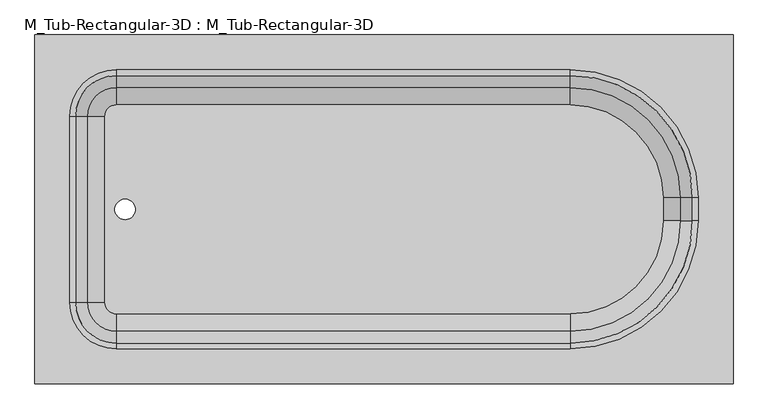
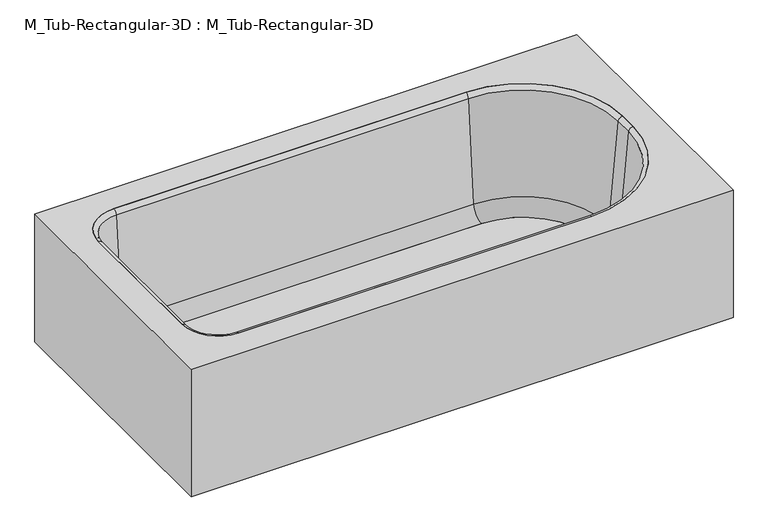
"""IFC4 building model written with IfcOpenShell, lengths in millimetres: flow terminal geometry, M_Tub-Rectangular-3D : M_Tub-Rectangular-3D."""

from ifc_helpers import new_model, si_unit, point, frame, frame_2d, origin, place, context, project, spatial, polyline, circle_curve, ellipse_curve, trimmed, segment, composite_curve, outline, extrude, source, transform, mapped, element, save
from ifc_brep_helpers import plane_surface, cylinder_surface, revolved_surface, advanced_brep


def m_tub_rectangular_3d_m_tub_rectangular_3d_3da3e62d(model_context):
    return source(origin(), model_context, "Body", "SolidModel", [
        advanced_brep(
        [(414.3970313, 938.2125, 380.0), (-1110.6029687, 938.2125, 380.0), (-1110.6029687, 176.2125, 380.0), (414.3970313, 176.2125, 380.0), (-932.8029687, 862.0125, 380.0), (58.7970313, 862.0125, 380.0), (338.1970313, 582.6125, 380.0), (338.1970313, 531.8125, 380.0), (58.7970313, 252.4125, 380.0), (-932.8029687, 252.4125, 380.0), (-1034.4029687, 354.0125, 380.0), (-1034.4029687, 760.4125, 380.0), (395.3470313, 919.1625, 360.95), (395.3470313, 195.2625, 360.95), (-1091.5529687, 195.2625, 360.95), (-1091.5529687, 919.1625, 360.95), (-932.8029687, 862.0125, 360.95), (-1034.4029687, 760.4125, 360.95), (-1034.4029687, 354.0125, 360.95), (-932.8029687, 252.4125, 360.95), (58.7970313, 252.4125, 360.95), (338.1970313, 531.8125, 360.95), (338.1970313, 582.6125, 360.95), (58.7970313, 862.0125, 360.95), (414.3970313, 938.2125, 0.0), (-1110.6029687, 938.2125, 0.0), (-1110.6029687, 176.2125, 0.0), (414.3970313, 176.2125, 0.0), (395.3470313, 919.1625, 0.0), (-1091.5529687, 919.1625, 0.0), (-1091.5529687, 195.2625, 0.0), (395.3470313, 195.2625, 0.0)],
        [
            (0, 1),
            (1, 2),
            (2, 3),
            (3, 0),
            (4, 5),
            (5, 6, circle_curve(frame((58.7970313, 582.6125, 380.0), z_axis=(0.0, 0.0, -1.0), x_axis=(0.0, 1.0, 0.0)), 279.4)),
            (6, 7),
            (7, 8, circle_curve(frame((58.7970313, 531.8125, 380.0), z_axis=(0.0, 0.0, -1.0), x_axis=(0.0, 1.0, 0.0)), 279.4)),
            (8, 9),
            (9, 10, circle_curve(frame((-932.8029687, 354.0125, 380.0), z_axis=(0.0, 0.0, -1.0), x_axis=(0.0, 1.0, 0.0)), 101.6)),
            (10, 11),
            (11, 4, circle_curve(frame((-932.8029687, 760.4125, 380.0), z_axis=(0.0, 0.0, -1.0), x_axis=(0.0, 1.0, 0.0)), 101.6)),
            (12, 13),
            (13, 14),
            (14, 15),
            (15, 12),
            (16, 17, circle_curve(frame((-932.8029687, 760.4125, 360.95), z_axis=(0.0, 0.0, 1.0), x_axis=(0.0, 1.0, 0.0)), 101.6)),
            (17, 18),
            (18, 19, circle_curve(frame((-932.8029687, 354.0125, 360.95), z_axis=(0.0, 0.0, 1.0), x_axis=(0.0, 1.0, 0.0)), 101.6)),
            (19, 20),
            (20, 21, circle_curve(frame((58.7970313, 531.8125, 360.95), z_axis=(0.0, 0.0, 1.0), x_axis=(0.0, 1.0, 0.0)), 279.4)),
            (21, 22),
            (22, 23, circle_curve(frame((58.7970313, 582.6125, 360.95), z_axis=(0.0, 0.0, 1.0), x_axis=(0.0, 1.0, 0.0)), 279.4)),
            (23, 16),
            (0, 24),
            (24, 25),
            (25, 1),
            (25, 26),
            (26, 2),
            (26, 27),
            (27, 3),
            (27, 24),
            (4, 16),
            (23, 5),
            (22, 6),
            (21, 7),
            (20, 8),
            (19, 9),
            (18, 10),
            (17, 11),
            (28, 29),
            (29, 30),
            (30, 31),
            (31, 28),
            (31, 13),
            (12, 28),
            (30, 14),
            (29, 15),
        ],
        [
            plane_surface(frame((-1110.6029687, 938.2125, 380.0), z_axis=(0.0, 0.0, 1.0), x_axis=(-1.0, 0.0, 0.0))),
            plane_surface(frame((-1110.6029687, 938.2125, 360.95), z_axis=(0.0, 0.0, -1.0), x_axis=(1.0, 0.0, 0.0))),
            plane_surface(frame((414.3970313, 938.2125, 380.0), z_axis=(0.0, 1.0, 0.0), x_axis=(0.0, 0.0, -1.0))),
            plane_surface(frame((-1110.6029687, 938.2125, 380.0), z_axis=(-1.0, 0.0, 0.0), x_axis=(0.0, 0.0, -1.0))),
            plane_surface(frame((-1110.6029687, 176.2125, 380.0), z_axis=(0.0, -1.0, 0.0), x_axis=(0.0, 0.0, -1.0))),
            plane_surface(frame((414.3970313, 176.2125, 380.0), z_axis=(1.0, 0.0, 0.0), x_axis=(0.0, 0.0, -1.0))),
            plane_surface(frame((-932.8029687, 862.0125, 380.0), z_axis=(0.0, -1.0, 0.0), x_axis=(0.0, 0.0, -1.0))),
            revolved_surface(polyline([(58.7970313, 862.0124999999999, 360.95), (58.7970313, 862.0124999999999, 380.0)]), (58.7970313, 582.6125, 380.0), (0.0, 0.0, -1.0)),
            plane_surface(frame((338.1970313, 582.6125, 380.0), z_axis=(-1.0, 0.0, 0.0), x_axis=(0.0, 0.0, -1.0))),
            revolved_surface(polyline([(58.7970313, 811.2125, 360.95), (58.7970313, 811.2125, 380.0)]), (58.7970313, 531.8125, 380.0), (0.0, 0.0, -1.0)),
            plane_surface(frame((58.7970313, 252.4125, 380.0), z_axis=(0.0, 1.0, 0.0), x_axis=(0.0, 0.0, -1.0))),
            revolved_surface(polyline([(-932.8029687, 455.61249999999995, 360.95), (-932.8029687, 455.61249999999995, 380.0)]), (-932.8029687, 354.0125, 380.0), (0.0, 0.0, -1.0)),
            plane_surface(frame((-1034.4029687, 354.0125, 380.0), z_axis=(1.0, 0.0, 0.0), x_axis=(0.0, 0.0, -1.0))),
            revolved_surface(polyline([(-932.8029687, 862.0125, 360.95), (-932.8029687, 862.0125, 380.0)]), (-932.8029687, 760.4125, 380.0), (0.0, 0.0, -1.0)),
            plane_surface(frame((-1110.6029687, 938.2125, 0.0), z_axis=(0.0, 0.0, -1.0), x_axis=(1.0, 0.0, 0.0))),
            plane_surface(frame((395.3470313, 919.1625, 360.95), z_axis=(-1.0, 0.0, 0.0), x_axis=(0.0, 0.0, -1.0))),
            plane_surface(frame((395.3470313, 195.2625, 360.95), z_axis=(0.0, 1.0, 0.0), x_axis=(0.0, 0.0, -1.0))),
            plane_surface(frame((-1091.5529687, 195.2625, 360.95), z_axis=(1.0, 0.0, 0.0), x_axis=(0.0, 0.0, -1.0))),
            plane_surface(frame((-1091.5529687, 919.1625, 360.95), z_axis=(0.0, -1.0, 0.0), x_axis=(0.0, 0.0, -1.0))),
        ],
        [
            (0, [[1, 2, 3, 4], [5, 6, 7, 8, 9, 10, 11, 12]]),
            (1, [[13, 14, 15, 16], [17, 18, 19, 20, 21, 22, 23, 24]]),
            (2, [[-1, 25, 26, 27]]),
            (3, [[-2, -27, 28, 29]]),
            (4, [[-3, -29, 30, 31]]),
            (5, [[-25, -4, -31, 32]]),
            (6, [[-5, 33, -24, 34]]),
            (7, [[-6, -34, -23, 35]]),
            (8, [[-7, -35, -22, 36]]),
            (9, [[-8, -36, -21, 37]]),
            (10, [[-9, -37, -20, 38]]),
            (11, [[-10, -38, -19, 39]]),
            (12, [[-11, -39, -18, 40]]),
            (13, [[-12, -40, -17, -33]]),
            (14, [[-32, -30, -28, -26], [41, 42, 43, 44]]),
            (15, [[-44, 45, -13, 46]]),
            (16, [[-43, 47, -14, -45]]),
            (17, [[-42, 48, -15, -47]]),
            (18, [[-41, -46, -16, -48]]),
        ],
    ),
        extrude(outline(composite_curve([segment(trimmed(circle_curve(frame_2d((58.7970313, 582.6125)), 202.7964741), [point((58.7970313, 785.4089741))], [point((261.5935054, 582.6125))], False, "CARTESIAN"), True, "CONTINUOUS"), segment(polyline([(261.5935054, 582.6125), (261.5935054, 531.8125)]), True, "CONTINUOUS"), segment(trimmed(circle_curve(frame_2d((58.7970313, 531.8125)), 202.7964741), [point((261.5935054, 531.8125))], [point((58.7970313, 329.0160259))], False, "CARTESIAN"), True, "CONTINUOUS"), segment(polyline([(58.7970313, 329.0160259), (-932.8029687, 329.0160259)]), True, "CONTINUOUS"), segment(trimmed(circle_curve(frame_2d((-932.8029687, 354.0125)), 24.9964741), [point((-932.8029687, 329.0160259))], [point((-957.7994428, 354.0125))], False, "CARTESIAN"), True, "CONTINUOUS"), segment(polyline([(-957.7994428, 354.0125), (-957.7994428, 760.4125)]), True, "CONTINUOUS"), segment(trimmed(circle_curve(frame_2d((-932.8029687, 760.4125)), 24.9964741), [point((-957.7994428, 760.4125))], [point((-932.8029687, 785.4089741))], False, "CARTESIAN"), True, "CONTINUOUS"), segment(polyline([(-932.8029687, 785.4089741), (58.7970313, 785.4089741)]), True, "CONTINUOUS")], self_intersect=False), holes=[composite_curve([segment(trimmed(circle_curve(frame_2d((-913.5971625, 557.2125)), 22.225), [point((-913.5971625, 579.4375))], [point((-913.5971625, 534.9875))], True, "CARTESIAN"), True, "CONTINUOUS"), segment(trimmed(circle_curve(frame_2d((-913.5971625, 557.2125)), 22.225), [point((-913.5971625, 534.9875))], [point((-913.5971625, 579.4375))], True, "CARTESIAN"), True, "CONTINUOUS")], self_intersect=False)]), frame((0.0, 0.0, 15.863573), z_axis=(0.0, 0.0, 1.0), x_axis=(1.0, 0.0, 0.0)), (0.0, 0.0, 1.0), 19.05),
        advanced_brep(
        [(-995.7544608, 760.4125, 69.6929392), (-932.8029687, 823.3639921, 69.6929392), (-932.8029687, 849.5345035, 368.8232535), (-1021.9249722, 760.4125, 368.8232535), (-957.7994428, 760.4125, 34.913573), (-932.8029687, 785.4089741, 34.913573), (-957.7994428, 760.4125, 15.863573), (-932.8029687, 785.4089741, 15.863573), (-1034.4029687, 760.4125, 15.863573), (-932.8029687, 862.0125, 15.863573), (-1034.4029687, 760.4125, 380.0), (-932.8029687, 862.0125, 380.0), (-1021.9249722, 354.0125, 368.8232535), (-995.7544608, 354.0125, 69.6929392), (-957.7994428, 354.0125, 34.913573), (-957.7994428, 354.0125, 15.863573), (-1034.4029687, 354.0125, 15.863573), (-1034.4029687, 354.0125, 380.0), (-932.8029687, 291.0610079, 69.6929392), (-932.8029687, 264.8904965, 368.8232535), (-932.8029687, 329.0160259, 34.913573), (-932.8029687, 329.0160259, 15.863573), (-932.8029687, 252.4125, 15.863573), (-932.8029687, 252.4125, 380.0), (58.7970313, 264.8904965, 368.8232535), (58.7970313, 291.0610079, 69.6929392), (58.7970313, 329.0160259, 34.913573), (58.7970313, 329.0160259, 15.863573), (58.7970313, 252.4125, 15.863573), (58.7970313, 252.4125, 380.0), (299.5485234, 531.8125, 69.6929392), (325.7190348, 531.8125, 368.8232535), (261.5935054, 531.8125, 34.913573), (261.5935054, 531.8125, 15.863573), (338.1970313, 531.8125, 15.863573), (338.1970313, 531.8125, 380.0), (325.7190348, 582.6125, 368.8232535), (299.5485234, 582.6125, 69.6929392), (261.5935054, 582.6125, 34.913573), (261.5935054, 582.6125, 15.863573), (338.1970313, 582.6125, 15.863573), (338.1970313, 582.6125, 380.0), (58.7970313, 823.3639921, 69.6929392), (58.7970313, 849.5345035, 368.8232535), (58.7970313, 785.4089741, 34.913573), (58.7970313, 785.4089741, 15.863573), (58.7970313, 862.0125, 15.863573), (58.7970313, 862.0125, 380.0)],
        [
            (0, 1, circle_curve(frame((-932.8029687, 760.4125, 69.6929392), z_axis=(0.0, 0.0, -1.0), x_axis=(0.0, 1.0, 0.0)), 62.9514921)),
            (1, 2),
            (2, 3, circle_curve(frame((-932.8029687, 760.4125, 368.8232535), z_axis=(0.0, 0.0, 1.0), x_axis=(0.0, 1.0, 0.0)), 89.1220035)),
            (3, 0),
            (4, 5, circle_curve(frame((-932.8029687, 760.4125, 34.913573), z_axis=(0.0, 0.0, -1.0), x_axis=(0.0, 1.0, 0.0)), 24.9964741)),
            (5, 1, circle_curve(frame((-932.8029687, 785.4089741, 73.013573), z_axis=(1.0, 0.0, 0.0), x_axis=(0.0, -1.0, 0.0)), 38.1)),
            (0, 4, circle_curve(frame((-957.7994428, 760.4125, 73.013573), z_axis=(0.0, -1.0, 0.0), x_axis=(1.0, 0.0, 0.0)), 38.1)),
            (6, 7, circle_curve(frame((-932.8029687, 760.4125, 15.863573), z_axis=(0.0, 0.0, -1.0), x_axis=(0.0, 1.0, 0.0)), 24.9964741)),
            (7, 5),
            (4, 6),
            (8, 9, circle_curve(frame((-932.8029687, 760.4125, 15.863573), z_axis=(0.0, 0.0, -1.0), x_axis=(0.0, 1.0, 0.0)), 101.6)),
            (9, 7),
            (6, 8),
            (10, 11, circle_curve(frame((-932.8029687, 760.4125, 380.0), z_axis=(0.0, 0.0, -1.0), x_axis=(0.0, 1.0, 0.0)), 101.6)),
            (11, 9),
            (8, 10),
            (2, 11, circle_curve(frame((-932.8029687, 862.0125, 367.4462547), z_axis=(-1.0, 0.0, 0.0), x_axis=(0.0, -1.0, 0.0)), 12.5537453)),
            (10, 3, circle_curve(frame((-1034.4029687, 760.4125, 367.4462547), z_axis=(0.0, 1.0, 0.0), x_axis=(1.0, 0.0, 0.0)), 12.5537453)),
            (3, 12),
            (12, 13),
            (13, 0),
            (13, 14, circle_curve(frame((-957.7994428, 354.0125, 73.013573), z_axis=(0.0, -1.0, 0.0), x_axis=(1.0, 0.0, 0.0)), 38.1)),
            (14, 4),
            (14, 15),
            (15, 6),
            (15, 16),
            (16, 8),
            (16, 17),
            (17, 10),
            (17, 12, circle_curve(frame((-1034.4029687, 354.0125, 367.4462547), z_axis=(0.0, 1.0, 0.0), x_axis=(1.0, 0.0, 0.0)), 12.5537453)),
            (18, 13, circle_curve(frame((-932.8029687, 354.0125, 69.6929392), z_axis=(0.0, 0.0, -1.0), x_axis=(-1.0, 0.0, 0.0)), 62.9514921)),
            (12, 19, circle_curve(frame((-932.8029687, 354.0125, 368.8232535), z_axis=(0.0, 0.0, 1.0), x_axis=(-1.0, 0.0, 0.0)), 89.1220035)),
            (19, 18),
            (20, 14, circle_curve(frame((-932.8029687, 354.0125, 34.913573), z_axis=(0.0, 0.0, -1.0), x_axis=(-1.0, 0.0, 0.0)), 24.9964741)),
            (18, 20, circle_curve(frame((-932.8029687, 329.0160259, 73.013573), z_axis=(1.0, 0.0, 0.0), x_axis=(0.0, 1.0, 0.0)), 38.1)),
            (21, 15, circle_curve(frame((-932.8029687, 354.0125, 15.863573), z_axis=(0.0, 0.0, -1.0), x_axis=(-1.0, 0.0, 0.0)), 24.9964741)),
            (20, 21),
            (22, 16, circle_curve(frame((-932.8029687, 354.0125, 15.863573), z_axis=(0.0, 0.0, -1.0), x_axis=(-1.0, 0.0, 0.0)), 101.6)),
            (21, 22),
            (23, 17, circle_curve(frame((-932.8029687, 354.0125, 380.0), z_axis=(0.0, 0.0, -1.0), x_axis=(-1.0, 0.0, 0.0)), 101.6)),
            (22, 23),
            (23, 19, circle_curve(frame((-932.8029687, 252.4125, 367.4462547), z_axis=(-1.0, 0.0, 0.0), x_axis=(0.0, 1.0, 0.0)), 12.5537453)),
            (19, 24),
            (24, 25),
            (25, 18),
            (25, 26, circle_curve(frame((58.7970313, 329.0160259, 73.013573), z_axis=(1.0, 0.0, 0.0), x_axis=(0.0, 1.0, 0.0)), 38.1)),
            (26, 20),
            (26, 27),
            (27, 21),
            (27, 28),
            (28, 22),
            (28, 29),
            (29, 23),
            (29, 24, circle_curve(frame((58.7970313, 252.4125, 367.4462547), z_axis=(-1.0, 0.0, 0.0), x_axis=(0.0, 1.0, 0.0)), 12.5537453)),
            (30, 25, circle_curve(frame((58.7970313, 531.8125, 69.6929392), z_axis=(0.0, 0.0, -1.0), x_axis=(0.0, -1.0, 0.0)), 240.7514921)),
            (24, 31, circle_curve(frame((58.7970313, 531.8125, 368.8232535), z_axis=(0.0, 0.0, 1.0), x_axis=(0.0, -1.0, 0.0)), 266.9220035)),
            (31, 30),
            (32, 26, circle_curve(frame((58.7970313, 531.8125, 34.913573), z_axis=(0.0, 0.0, -1.0), x_axis=(0.0, -1.0, 0.0)), 202.7964741)),
            (30, 32, circle_curve(frame((261.5935054, 531.8125, 73.013573), z_axis=(0.0, 1.0, 0.0), x_axis=(-1.0, 0.0, 0.0)), 38.1)),
            (33, 27, circle_curve(frame((58.7970313, 531.8125, 15.863573), z_axis=(0.0, 0.0, -1.0), x_axis=(0.0, -1.0, 0.0)), 202.7964741)),
            (32, 33),
            (34, 28, circle_curve(frame((58.7970313, 531.8125, 15.863573), z_axis=(0.0, 0.0, -1.0), x_axis=(0.0, -1.0, 0.0)), 279.4)),
            (33, 34),
            (35, 29, circle_curve(frame((58.7970313, 531.8125, 380.0), z_axis=(0.0, 0.0, -1.0), x_axis=(0.0, -1.0, 0.0)), 279.4)),
            (34, 35),
            (35, 31, circle_curve(frame((338.1970313, 531.8125, 367.4462547), z_axis=(0.0, -1.0, 0.0), x_axis=(-1.0, 0.0, 0.0)), 12.5537453)),
            (31, 36),
            (36, 37),
            (37, 30),
            (37, 38, circle_curve(frame((261.5935054, 582.6125, 73.013573), z_axis=(0.0, 1.0, 0.0), x_axis=(-1.0, 0.0, 0.0)), 38.1)),
            (38, 32),
            (38, 39),
            (39, 33),
            (39, 40),
            (40, 34),
            (40, 41),
            (41, 35),
            (41, 36, circle_curve(frame((338.1970313, 582.6125, 367.4462547), z_axis=(0.0, -1.0, 0.0), x_axis=(-1.0, 0.0, 0.0)), 12.5537453)),
            (42, 37, circle_curve(frame((58.7970313, 582.6125, 69.6929392), z_axis=(0.0, 0.0, -1.0), x_axis=(1.0, 0.0, 0.0)), 240.7514921)),
            (36, 43, circle_curve(frame((58.7970313, 582.6125, 368.8232535), z_axis=(0.0, 0.0, 1.0), x_axis=(1.0, 0.0, 0.0)), 266.9220035)),
            (43, 42),
            (44, 38, circle_curve(frame((58.7970313, 582.6125, 34.913573), z_axis=(0.0, 0.0, -1.0), x_axis=(1.0, 0.0, 0.0)), 202.7964741)),
            (42, 44, circle_curve(frame((58.7970313, 785.4089741, 73.013573), z_axis=(-1.0, 0.0, 0.0), x_axis=(0.0, -1.0, 0.0)), 38.1)),
            (45, 39, circle_curve(frame((58.7970313, 582.6125, 15.863573), z_axis=(0.0, 0.0, -1.0), x_axis=(1.0, 0.0, 0.0)), 202.7964741)),
            (44, 45),
            (46, 40, circle_curve(frame((58.7970313, 582.6125, 15.863573), z_axis=(0.0, 0.0, -1.0), x_axis=(1.0, 0.0, 0.0)), 279.4)),
            (45, 46),
            (47, 41, circle_curve(frame((58.7970313, 582.6125, 380.0), z_axis=(0.0, 0.0, -1.0), x_axis=(1.0, 0.0, 0.0)), 279.4)),
            (46, 47),
            (47, 43, circle_curve(frame((58.7970313, 862.0125, 367.4462547), z_axis=(1.0, 0.0, 0.0), x_axis=(0.0, -1.0, 0.0)), 12.5537453)),
            (43, 2),
            (1, 42),
            (5, 44),
            (7, 45),
            (9, 46),
            (11, 47),
        ],
        [
            revolved_surface(polyline([(-932.8029687, 849.5345035, 368.8232535), (-932.8029687, 823.3639921, 69.6929392)]), (-932.8029687, 760.4125, 380.0), (0.0, 0.0, 1.0)),
            revolved_surface(trimmed(ellipse_curve(frame((-932.8029687, 785.4089741, 73.013573), z_axis=(-1.0, 0.0, 0.0), x_axis=(0.0, -1.0, 0.0)), 38.1, 38.1), [point((-932.8029687, 823.3639921, 69.6929392))], [point((-932.8029687, 785.4089741, 34.913573))], True, "CARTESIAN"), (-932.8029687, 760.4125, 380.0), (0.0, 0.0, 1.0)),
            revolved_surface(polyline([(-932.8029687, 785.4089741, 34.913572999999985), (-932.8029687, 785.4089741, 15.863572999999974)]), (-932.8029687, 760.4125, 380.0), (0.0, 0.0, 1.0)),
            plane_surface(frame((-932.8029687, 760.4125, 15.863573), z_axis=(0.0, 0.0, -1.0), x_axis=(0.0, 1.0, 0.0))),
            cylinder_surface(frame((-932.8029687, 760.4125, 380.0), z_axis=(0.0, 0.0, 1.0), x_axis=(0.0, 1.0, 0.0)), 101.6),
            revolved_surface(trimmed(ellipse_curve(frame((-932.8029687, 862.0125, 367.4462547), z_axis=(1.0, 0.0, 0.0), x_axis=(0.0, -1.0, 0.0)), 12.5537453, 12.5537453), [point((-932.8029687, 862.0125, 380.0))], [point((-932.8029687, 849.5345035, 368.8232535))], True, "CARTESIAN"), (-932.8029687, 760.4125, 380.0), (0.0, 0.0, 1.0)),
            plane_surface(frame((-1021.9249722, 760.4125, 368.8232535), z_axis=(0.9961946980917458, 0.0, 0.08715574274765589), x_axis=(0.0, -1.0, 0.0))),
            revolved_surface(polyline([(-919.6994427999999, 354.0125, 73.013573), (-919.6994427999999, 760.4125, 73.013573)]), (-957.7994428, 760.4125, 73.013573), (0.0, -1.0, 0.0)),
            plane_surface(frame((-957.7994428, 760.4125, 34.913573), z_axis=(1.0, 0.0, 0.0), x_axis=(0.0, -1.0, 0.0))),
            plane_surface(frame((-957.7994428, 760.4125, 15.863573), z_axis=(0.0, 0.0, -1.0), x_axis=(0.0, -1.0, 0.0))),
            plane_surface(frame((-1034.4029687, 760.4125, 15.863573), z_axis=(-1.0, 0.0, 0.0), x_axis=(0.0, -1.0, 0.0))),
            cylinder_surface(frame((-1034.4029687, 760.4125, 367.4462547), z_axis=(0.0, 1.0, 0.0), x_axis=(1.0, 0.0, 0.0)), 12.5537453),
            revolved_surface(polyline([(-1021.9249722, 354.0125, 368.8232535), (-995.7544608, 354.0125, 69.6929392)]), (-932.8029687, 354.0125, 380.0), (0.0, 0.0, 1.0)),
            revolved_surface(trimmed(ellipse_curve(frame((-957.7994428, 354.0125, 73.013573), z_axis=(0.0, -1.0, 0.0), x_axis=(1.0, 0.0, 0.0)), 38.1, 38.1), [point((-995.7544608, 354.0125, 69.6929392))], [point((-957.7994428, 354.0125, 34.913573))], True, "CARTESIAN"), (-932.8029687, 354.0125, 380.0), (0.0, 0.0, 1.0)),
            revolved_surface(polyline([(-957.7994428, 354.0125, 34.913572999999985), (-957.7994428, 354.0125, 15.863572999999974)]), (-932.8029687, 354.0125, 380.0), (0.0, 0.0, 1.0)),
            plane_surface(frame((-932.8029687, 354.0125, 15.863573), z_axis=(0.0, 0.0, -1.0), x_axis=(-1.0, 0.0, 0.0))),
            cylinder_surface(frame((-932.8029687, 354.0125, 380.0), z_axis=(0.0, 0.0, 1.0), x_axis=(-1.0, 0.0, 0.0)), 101.6),
            revolved_surface(trimmed(ellipse_curve(frame((-1034.4029687, 354.0125, 367.4462547), z_axis=(0.0, 1.0, 0.0), x_axis=(1.0, 0.0, 0.0)), 12.5537453, 12.5537453), [point((-1034.4029687, 354.0125, 380.0))], [point((-1021.9249722, 354.0125, 368.8232535))], True, "CARTESIAN"), (-932.8029687, 354.0125, 380.0), (0.0, 0.0, 1.0)),
            plane_surface(frame((-932.8029687, 264.8904965, 368.8232535), z_axis=(0.0, 0.9961946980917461, 0.08715574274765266), x_axis=(1.0, 0.0, 0.0))),
            revolved_surface(polyline([(58.79703129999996, 367.1160259, 73.013573), (-932.8029687, 367.1160259, 73.013573)]), (-932.8029687, 329.0160259, 73.013573), (1.0, 0.0, 0.0)),
            plane_surface(frame((-932.8029687, 329.0160259, 34.913573), z_axis=(0.0, 1.0, 0.0), x_axis=(1.0, 0.0, 0.0))),
            plane_surface(frame((-932.8029687, 329.0160259, 15.863573), z_axis=(0.0, 0.0, -1.0), x_axis=(1.0, 0.0, 0.0))),
            plane_surface(frame((-932.8029687, 252.4125, 15.863573), z_axis=(0.0, -1.0, 0.0), x_axis=(1.0, 0.0, 0.0))),
            cylinder_surface(frame((-932.8029687, 252.4125, 367.4462547), z_axis=(-1.0, 0.0, 0.0), x_axis=(0.0, 1.0, 0.0)), 12.5537453),
            revolved_surface(polyline([(58.7970313, 264.8904965, 368.8232535), (58.7970313, 291.0610079, 69.6929392)]), (58.7970313, 531.8125, 380.0), (0.0, 0.0, 1.0)),
            revolved_surface(trimmed(ellipse_curve(frame((58.7970313, 329.0160259, 73.013573), z_axis=(1.0, 0.0, 0.0), x_axis=(0.0, 1.0, 0.0)), 38.1, 38.1), [point((58.7970313, 291.0610079, 69.6929392))], [point((58.7970313, 329.0160259, 34.913573))], True, "CARTESIAN"), (58.7970313, 531.8125, 380.0), (0.0, 0.0, 1.0)),
            revolved_surface(polyline([(58.7970313, 329.0160259, 34.913572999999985), (58.7970313, 329.0160259, 15.863572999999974)]), (58.7970313, 531.8125, 380.0), (0.0, 0.0, 1.0)),
            plane_surface(frame((58.7970313, 531.8125, 15.863573), z_axis=(0.0, 0.0, -1.0), x_axis=(0.0, -1.0, 0.0))),
            cylinder_surface(frame((58.7970313, 531.8125, 380.0), z_axis=(0.0, 0.0, 1.0), x_axis=(0.0, -1.0, 0.0)), 279.4),
            revolved_surface(trimmed(ellipse_curve(frame((58.7970313, 252.4125, 367.4462547), z_axis=(-1.0, 0.0, 0.0), x_axis=(0.0, 1.0, 0.0)), 12.5537453, 12.5537453), [point((58.7970313, 252.4125, 380.0))], [point((58.7970313, 264.8904965, 368.8232535))], True, "CARTESIAN"), (58.7970313, 531.8125, 380.0), (0.0, 0.0, 1.0)),
            plane_surface(frame((325.7190348, 531.8125, 368.8232535), z_axis=(-0.9961946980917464, 0.0, 0.08715574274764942), x_axis=(0.0, 1.0, 0.0))),
            revolved_surface(polyline([(223.49350540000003, 582.6125, 73.013573), (223.49350540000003, 531.8125, 73.013573)]), (261.5935054, 531.8125, 73.013573), (0.0, 1.0, 0.0)),
            plane_surface(frame((261.5935054, 531.8125, 34.913573), z_axis=(-1.0, 0.0, 0.0), x_axis=(0.0, 1.0, 0.0))),
            plane_surface(frame((261.5935054, 531.8125, 15.863573), z_axis=(0.0, 0.0, -1.0), x_axis=(0.0, 1.0, 0.0))),
            plane_surface(frame((338.1970313, 531.8125, 15.863573), z_axis=(1.0, 0.0, 0.0), x_axis=(0.0, 1.0, 0.0))),
            cylinder_surface(frame((338.1970313, 531.8125, 367.4462547), z_axis=(0.0, -1.0, 0.0), x_axis=(-1.0, 0.0, 0.0)), 12.5537453),
            revolved_surface(polyline([(325.7190348, 582.6125, 368.8232535), (299.5485234, 582.6125, 69.6929392)]), (58.7970313, 582.6125, 380.0), (0.0, 0.0, 1.0)),
            revolved_surface(trimmed(ellipse_curve(frame((261.5935054, 582.6125, 73.013573), z_axis=(0.0, 1.0, 0.0), x_axis=(-1.0, 0.0, 0.0)), 38.1, 38.1), [point((299.5485234, 582.6125, 69.6929392))], [point((261.5935054, 582.6125, 34.913573))], True, "CARTESIAN"), (58.7970313, 582.6125, 380.0), (0.0, 0.0, 1.0)),
            revolved_surface(polyline([(261.5935054, 582.6125, 34.913572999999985), (261.5935054, 582.6125, 15.863572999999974)]), (58.7970313, 582.6125, 380.0), (0.0, 0.0, 1.0)),
            plane_surface(frame((58.7970313, 582.6125, 15.863573), z_axis=(0.0, 0.0, -1.0), x_axis=(1.0, 0.0, 0.0))),
            cylinder_surface(frame((58.7970313, 582.6125, 380.0), z_axis=(0.0, 0.0, 1.0), x_axis=(1.0, 0.0, 0.0)), 279.4),
            revolved_surface(trimmed(ellipse_curve(frame((338.1970313, 582.6125, 367.4462547), z_axis=(0.0, -1.0, 0.0), x_axis=(-1.0, 0.0, 0.0)), 12.5537453, 12.5537453), [point((338.1970313, 582.6125, 380.0))], [point((325.7190348, 582.6125, 368.8232535))], True, "CARTESIAN"), (58.7970313, 582.6125, 380.0), (0.0, 0.0, 1.0)),
            plane_surface(frame((58.7970313, 849.5345035, 368.8232535), z_axis=(0.0, -0.9961946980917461, 0.08715574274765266), x_axis=(-1.0, 0.0, 0.0))),
            revolved_surface(polyline([(-932.8029687, 747.3089741, 73.013573), (58.7970313, 747.3089741, 73.013573)]), (58.7970313, 785.4089741, 73.013573), (-1.0, 0.0, 0.0)),
            plane_surface(frame((58.7970313, 785.4089741, 34.913573), z_axis=(0.0, -1.0, 0.0), x_axis=(-1.0, 0.0, 0.0))),
            plane_surface(frame((58.7970313, 785.4089741, 15.863573), z_axis=(0.0, 0.0, -1.0), x_axis=(-1.0, 0.0, 0.0))),
            plane_surface(frame((58.7970313, 862.0125, 15.863573), z_axis=(0.0, 1.0, 0.0), x_axis=(-1.0, 0.0, 0.0))),
            cylinder_surface(frame((58.7970313, 862.0125, 367.4462547), z_axis=(1.0, 0.0, 0.0), x_axis=(0.0, -1.0, 0.0)), 12.5537453),
        ],
        [
            (0, [[1, 2, 3, 4]]),
            (1, [[5, 6, -1, 7]]),
            (2, [[8, 9, -5, 10]]),
            (3, [[11, 12, -8, 13]]),
            (4, [[14, 15, -11, 16]]),
            (5, [[-3, 17, -14, 18]]),
            (6, [[-4, 19, 20, 21]]),
            (7, [[-7, -21, 22, 23]]),
            (8, [[-10, -23, 24, 25]]),
            (9, [[-13, -25, 26, 27]]),
            (10, [[-16, -27, 28, 29]]),
            (11, [[-18, -29, 30, -19]]),
            (12, [[31, -20, 32, 33]]),
            (13, [[34, -22, -31, 35]]),
            (14, [[36, -24, -34, 37]]),
            (15, [[38, -26, -36, 39]]),
            (16, [[40, -28, -38, 41]]),
            (17, [[-32, -30, -40, 42]]),
            (18, [[-33, 43, 44, 45]]),
            (19, [[-35, -45, 46, 47]]),
            (20, [[-37, -47, 48, 49]]),
            (21, [[-39, -49, 50, 51]]),
            (22, [[-41, -51, 52, 53]]),
            (23, [[-42, -53, 54, -43]]),
            (24, [[55, -44, 56, 57]]),
            (25, [[58, -46, -55, 59]]),
            (26, [[60, -48, -58, 61]]),
            (27, [[62, -50, -60, 63]]),
            (28, [[64, -52, -62, 65]]),
            (29, [[-56, -54, -64, 66]]),
            (30, [[-57, 67, 68, 69]]),
            (31, [[-59, -69, 70, 71]]),
            (32, [[-61, -71, 72, 73]]),
            (33, [[-63, -73, 74, 75]]),
            (34, [[-65, -75, 76, 77]]),
            (35, [[-66, -77, 78, -67]]),
            (36, [[79, -68, 80, 81]]),
            (37, [[82, -70, -79, 83]]),
            (38, [[84, -72, -82, 85]]),
            (39, [[86, -74, -84, 87]]),
            (40, [[88, -76, -86, 89]]),
            (41, [[-80, -78, -88, 90]]),
            (42, [[-81, 91, -2, 92]]),
            (43, [[-83, -92, -6, 93]]),
            (44, [[-85, -93, -9, 94]]),
            (45, [[-87, -94, -12, 95]]),
            (46, [[-89, -95, -15, 96]]),
            (47, [[-90, -96, -17, -91]]),
        ],
    ),
    ])


if __name__ == "__main__":
    model = new_model("IFC4")
    model_context = context("Model", 3, world=origin())
    ifc_project = project(units=[si_unit("LENGTHUNIT", "METRE", prefix="MILLI")], contexts=[model_context])
    site = spatial("IfcSite", under=ifc_project)
    building = spatial("IfcBuilding", under=site)
    placement = place(None, origin())
    m_tub_rectangular_3d_m_tub_rectangular_3d_shape = m_tub_rectangular_3d_m_tub_rectangular_3d_3da3e62d(model_context)
    element("IfcFlowTerminal", 1, ObjectType="M_Tub-Rectangular-3D : M_Tub-Rectangular-3D", at=placement, inside=building, context=model_context, shape_type="MappedRepresentation", body=[
        mapped(m_tub_rectangular_3d_m_tub_rectangular_3d_shape, transform((0.0, 0.0, 0.0), x_axis=(1.0, 0.0, 0.0), y_axis=(0.0, 1.0, 0.0), z_axis=(0.0, 0.0, 1.0))),
    ])
    save(model, "model.ifc")
